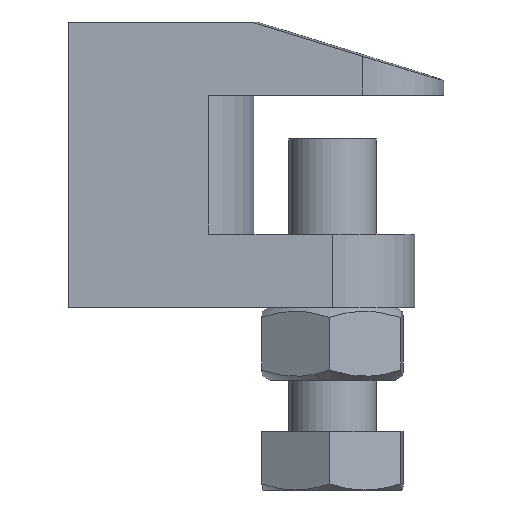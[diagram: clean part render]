
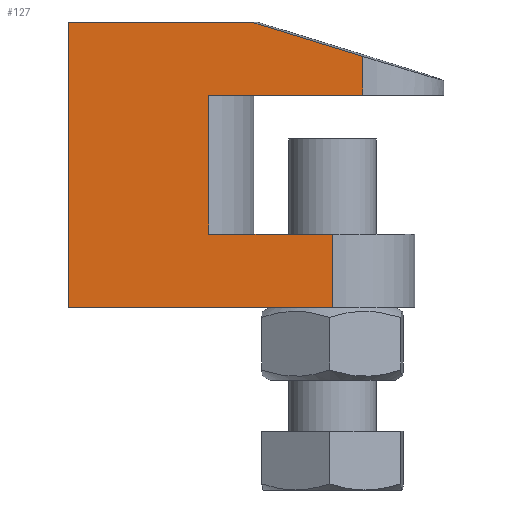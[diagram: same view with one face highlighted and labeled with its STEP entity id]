
A CAD part, front view. The second image highlights one B-rep face of the part: STEP entity #127.
In plain terms, the highlighted planar face has unit normal (0, -1, 0).
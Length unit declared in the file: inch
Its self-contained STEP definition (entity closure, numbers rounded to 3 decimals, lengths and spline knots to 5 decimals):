
#127=ADVANCED_FACE('',(#266),#267,.T.);
#266=FACE_OUTER_BOUND('',#432,.T.);
#267=PLANE('',#433);
#432=EDGE_LOOP('',(#670,#671,#672,#673,#674,#675,#676,#677,#678));
#433=AXIS2_PLACEMENT_3D('',#679,#680,#681);
#670=ORIENTED_EDGE('',*,*,#1017,.T.);
#671=ORIENTED_EDGE('',*,*,#1018,.F.);
#672=ORIENTED_EDGE('',*,*,#996,.T.);
#673=ORIENTED_EDGE('',*,*,#979,.T.);
#674=ORIENTED_EDGE('',*,*,#967,.T.);
#675=ORIENTED_EDGE('',*,*,#1019,.T.);
#676=ORIENTED_EDGE('',*,*,#1020,.F.);
#677=ORIENTED_EDGE('',*,*,#1021,.T.);
#678=ORIENTED_EDGE('',*,*,#939,.T.);
#679=CARTESIAN_POINT('',(-1.00119,0.,0.3937));
#680=DIRECTION('',(0.,-1.0,0.));
#681=DIRECTION('',(0.,0.,1.0));
#939=EDGE_CURVE('',#1097,#1101,#1103,.T.);
#967=EDGE_CURVE('',#1151,#1149,#1152,.T.);
#979=EDGE_CURVE('',#1167,#1151,#1171,.T.);
#996=EDGE_CURVE('',#1198,#1167,#1199,.T.);
#1017=EDGE_CURVE('',#1101,#1230,#1231,.T.);
#1018=EDGE_CURVE('',#1198,#1230,#1232,.T.);
#1019=EDGE_CURVE('',#1149,#1233,#1234,.T.);
#1020=EDGE_CURVE('',#1235,#1233,#1236,.T.);
#1021=EDGE_CURVE('',#1235,#1097,#1237,.T.);
#1097=VERTEX_POINT('',#1329);
#1101=VERTEX_POINT('',#1334);
#1103=LINE('',#1336,#1337);
#1149=VERTEX_POINT('',#1426);
#1151=VERTEX_POINT('',#1429);
#1152=LINE('',#1430,#1431);
#1167=VERTEX_POINT('',#1466);
#1171=LINE('',#1472,#1473);
#1198=VERTEX_POINT('',#1535);
#1199=LINE('',#1536,#1537);
#1230=VERTEX_POINT('',#1637);
#1231=LINE('',#1638,#1639);
#1232=LINE('',#1640,#1641);
#1233=VERTEX_POINT('',#1642);
#1234=LINE('',#1643,#1644);
#1235=VERTEX_POINT('',#1645);
#1236=LINE('',#1646,#1647);
#1237=LINE('',#1648,#1649);
#1329=CARTESIAN_POINT('',(-0.24388,0.,-0.74803));
#1334=CARTESIAN_POINT('',(-0.24388,0.,0.));
#1336=CARTESIAN_POINT('',(-0.24388,0.,0.));
#1337=VECTOR('',#1869,0.3937);
#1426=CARTESIAN_POINT('',(-1.00119,0.,-1.14173));
#1429=CARTESIAN_POINT('',(-1.00119,0.,0.3937));
#1430=CARTESIAN_POINT('',(-1.00119,0.,0.3937));
#1431=VECTOR('',#1902,0.3937);
#1466=CARTESIAN_POINT('',(-0.01634,0.,0.3937));
#1472=CARTESIAN_POINT('',(1.00791,0.,0.3937));
#1473=VECTOR('',#1916,0.3937);
#1535=CARTESIAN_POINT('',(0.5859,0.,0.20851));
#1536=CARTESIAN_POINT('',(-0.46677,0.,0.53221));
#1537=VECTOR('',#1928,0.3937);
#1637=CARTESIAN_POINT('',(0.5859,0.,0.));
#1638=CARTESIAN_POINT('',(0.00214,0.,0.));
#1639=VECTOR('',#1941,0.3937);
#1640=CARTESIAN_POINT('',(0.5859,0.,0.));
#1641=VECTOR('',#1942,0.3937);
#1642=CARTESIAN_POINT('',(0.42283,0.,-1.14173));
#1643=CARTESIAN_POINT('',(1.00791,0.,-1.14173));
#1644=VECTOR('',#1943,0.3937);
#1645=CARTESIAN_POINT('',(0.42283,0.,-0.74803));
#1646=CARTESIAN_POINT('',(0.42283,0.,-1.14173));
#1647=VECTOR('',#1944,0.3937);
#1648=CARTESIAN_POINT('',(-0.53414,0.,-0.74803));
#1649=VECTOR('',#1945,0.3937);
#1869=DIRECTION('',(0.,0.,1.0));
#1902=DIRECTION('',(0.,0.,-1.0));
#1916=DIRECTION('',(-1.0,0.,0.));
#1928=DIRECTION('',(-0.956,0.,0.294));
#1941=DIRECTION('',(1.0,0.,0.));
#1942=DIRECTION('',(0.,0.,-1.0));
#1943=DIRECTION('',(1.0,0.,0.));
#1944=DIRECTION('',(0.,0.,-1.0));
#1945=DIRECTION('',(-1.0,0.,0.));
